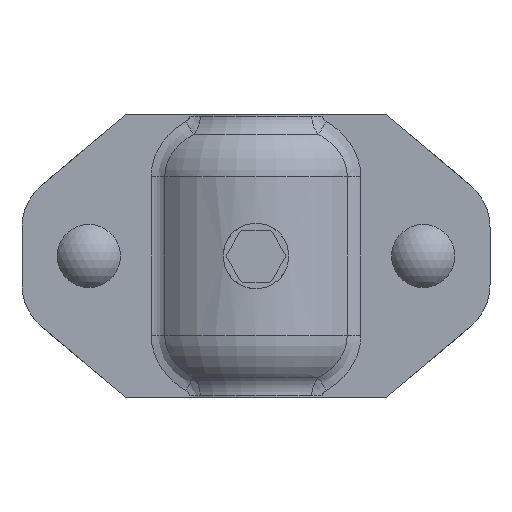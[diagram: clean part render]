
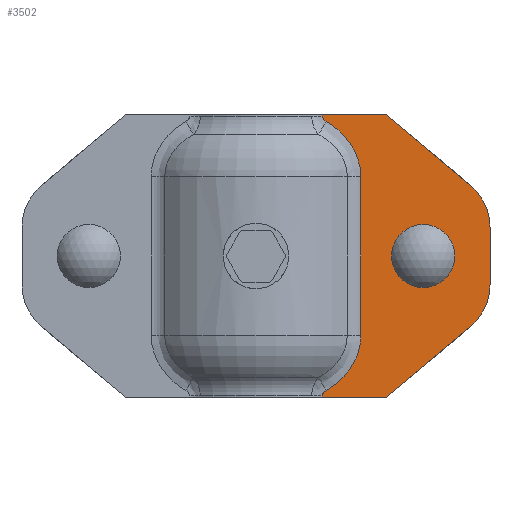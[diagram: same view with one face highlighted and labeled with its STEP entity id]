
A CAD part, front view. The second image highlights one B-rep face of the part: STEP entity #3502.
In plain terms, the highlighted planar face has unit normal (0, -1, 0).
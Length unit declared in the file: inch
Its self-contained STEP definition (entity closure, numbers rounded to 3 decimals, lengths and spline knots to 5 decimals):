
#89=B_SPLINE_CURVE_WITH_KNOTS('',3,(#5811,#5812,#5813,#5814,#5815,#5816),
 .UNSPECIFIED.,.F.,.F.,(4,1,1,4),(0.,0.07036,0.10554,
0.24625),.UNSPECIFIED.);
#91=B_SPLINE_CURVE_WITH_KNOTS('',3,(#5856,#5857,#5858,#5859,#5860,#5861),
 .UNSPECIFIED.,.F.,.F.,(4,1,1,4),(0.,1.03077,1.71795,
2.40513),.UNSPECIFIED.);
#93=B_SPLINE_CURVE_WITH_KNOTS('',3,(#5907,#5908,#5909,#5910,#5911,#5912),
 .UNSPECIFIED.,.F.,.F.,(4,1,1,4),(0.,1.03076,1.71793,
2.40511),.UNSPECIFIED.);
#95=B_SPLINE_CURVE_WITH_KNOTS('',3,(#5952,#5953,#5954,#5955,#5956,#5957),
 .UNSPECIFIED.,.F.,.F.,(4,1,1,4),(0.,0.14072,0.1759,
0.24626),.UNSPECIFIED.);
#158=FACE_BOUND('',#523,.T.);
#205=PLANE('',#3769);
#326=FACE_OUTER_BOUND('',#522,.T.);
#522=EDGE_LOOP('',(#2478,#2479,#2480,#2481,#2482,#2483,#2484,#2485,#2486,
#2487,#2488,#2489,#2490,#2491));
#523=EDGE_LOOP('',(#2492,#2493));
#745=LINE('',#5771,#1021);
#747=LINE('',#5867,#1023);
#749=LINE('',#5963,#1025);
#750=LINE('',#5966,#1026);
#751=LINE('',#5968,#1027);
#752=LINE('',#5972,#1028);
#753=LINE('',#5976,#1029);
#754=LINE('',#5977,#1030);
#1021=VECTOR('',#4301,0.3937);
#1023=VECTOR('',#4311,0.3937);
#1025=VECTOR('',#4321,0.3937);
#1026=VECTOR('',#4324,0.3937);
#1027=VECTOR('',#4325,0.3937);
#1028=VECTOR('',#4328,0.3937);
#1029=VECTOR('',#4331,0.3937);
#1030=VECTOR('',#4332,0.3937);
#1255=CIRCLE('',#3717,0.4375);
#1256=CIRCLE('',#3718,0.4375);
#1286=CIRCLE('',#3770,0.75);
#1287=CIRCLE('',#3771,0.75);
#1447=VERTEX_POINT('',#5655);
#1448=VERTEX_POINT('',#5656);
#1486=VERTEX_POINT('',#5764);
#1489=VERTEX_POINT('',#5769);
#1490=VERTEX_POINT('',#5802);
#1492=VERTEX_POINT('',#5847);
#1494=VERTEX_POINT('',#5863);
#1496=VERTEX_POINT('',#5898);
#1498=VERTEX_POINT('',#5943);
#1500=VERTEX_POINT('',#5959);
#1502=VERTEX_POINT('',#5965);
#1503=VERTEX_POINT('',#5967);
#1504=VERTEX_POINT('',#5969);
#1505=VERTEX_POINT('',#5971);
#1506=VERTEX_POINT('',#5973);
#1507=VERTEX_POINT('',#5975);
#1801=EDGE_CURVE('',#1447,#1448,#1255,.T.);
#1802=EDGE_CURVE('',#1448,#1447,#1256,.T.);
#1855=EDGE_CURVE('',#1489,#1486,#745,.T.);
#1858=EDGE_CURVE('',#1486,#1490,#89,.T.);
#1861=EDGE_CURVE('',#1490,#1492,#91,.T.);
#1864=EDGE_CURVE('',#1492,#1494,#747,.T.);
#1867=EDGE_CURVE('',#1494,#1496,#93,.T.);
#1870=EDGE_CURVE('',#1496,#1498,#95,.T.);
#1873=EDGE_CURVE('',#1498,#1500,#749,.T.);
#1874=EDGE_CURVE('',#1489,#1502,#750,.T.);
#1875=EDGE_CURVE('',#1502,#1503,#751,.T.);
#1876=EDGE_CURVE('',#1503,#1504,#1286,.T.);
#1877=EDGE_CURVE('',#1504,#1505,#752,.T.);
#1878=EDGE_CURVE('',#1505,#1506,#1287,.T.);
#1879=EDGE_CURVE('',#1506,#1507,#753,.T.);
#1880=EDGE_CURVE('',#1507,#1500,#754,.T.);
#2478=ORIENTED_EDGE('',*,*,#1873,.F.);
#2479=ORIENTED_EDGE('',*,*,#1870,.F.);
#2480=ORIENTED_EDGE('',*,*,#1867,.F.);
#2481=ORIENTED_EDGE('',*,*,#1864,.F.);
#2482=ORIENTED_EDGE('',*,*,#1861,.F.);
#2483=ORIENTED_EDGE('',*,*,#1858,.F.);
#2484=ORIENTED_EDGE('',*,*,#1855,.F.);
#2485=ORIENTED_EDGE('',*,*,#1874,.T.);
#2486=ORIENTED_EDGE('',*,*,#1875,.T.);
#2487=ORIENTED_EDGE('',*,*,#1876,.T.);
#2488=ORIENTED_EDGE('',*,*,#1877,.T.);
#2489=ORIENTED_EDGE('',*,*,#1878,.T.);
#2490=ORIENTED_EDGE('',*,*,#1879,.T.);
#2491=ORIENTED_EDGE('',*,*,#1880,.T.);
#2492=ORIENTED_EDGE('',*,*,#1801,.T.);
#2493=ORIENTED_EDGE('',*,*,#1802,.T.);
#3502=ADVANCED_FACE('',(#326,#158),#205,.T.);
#3717=AXIS2_PLACEMENT_3D('',#5657,#4184,#4185);
#3718=AXIS2_PLACEMENT_3D('',#5658,#4186,#4187);
#3769=AXIS2_PLACEMENT_3D('',#5964,#4322,#4323);
#3770=AXIS2_PLACEMENT_3D('',#5970,#4326,#4327);
#3771=AXIS2_PLACEMENT_3D('',#5974,#4329,#4330);
#4184=DIRECTION('center_axis',(0.,1.,0.));
#4185=DIRECTION('ref_axis',(-1.,0.,0.));
#4186=DIRECTION('center_axis',(0.,1.,0.));
#4187=DIRECTION('ref_axis',(-1.,0.,0.));
#4301=DIRECTION('',(0.,0.,1.));
#4311=DIRECTION('',(0.,0.,1.));
#4321=DIRECTION('',(0.,0.,1.));
#4322=DIRECTION('center_axis',(0.,-1.,0.));
#4323=DIRECTION('ref_axis',(0.,0.,-1.));
#4324=DIRECTION('',(1.,0.,0.));
#4325=DIRECTION('',(0.766,0.,0.643));
#4326=DIRECTION('center_axis',(0.,-1.,0.));
#4327=DIRECTION('ref_axis',(-1.,0.,0.));
#4328=DIRECTION('',(0.,0.,1.));
#4329=DIRECTION('center_axis',(0.,-1.,0.));
#4330=DIRECTION('ref_axis',(-0.643,0.,-0.766));
#4331=DIRECTION('',(-0.766,0.,0.643));
#4332=DIRECTION('',(-1.,0.,0.));
#5655=CARTESIAN_POINT('',(1.8775,-1.03,0.));
#5656=CARTESIAN_POINT('',(2.7525,-1.03,0.));
#5657=CARTESIAN_POINT('Origin',(2.315,-1.03,0.));
#5658=CARTESIAN_POINT('Origin',(2.315,-1.03,0.));
#5764=CARTESIAN_POINT('',(0.91773,-1.03,-1.93723));
#5769=CARTESIAN_POINT('',(0.91773,-1.03,-1.955));
#5771=CARTESIAN_POINT('',(0.91773,-1.03,-1.94612));
#5802=CARTESIAN_POINT('',(0.97182,-1.03,-1.86207));
#5811=CARTESIAN_POINT('Ctrl Pts',(0.91773,-1.03,-1.93723));
#5812=CARTESIAN_POINT('Ctrl Pts',(0.91773,-1.03,-1.928));
#5813=CARTESIAN_POINT('Ctrl Pts',(0.921,-1.03,-1.91426));
#5814=CARTESIAN_POINT('Ctrl Pts',(0.9373,-1.03,-1.88614));
#5815=CARTESIAN_POINT('Ctrl Pts',(0.95583,-1.03,-1.87132));
#5816=CARTESIAN_POINT('Ctrl Pts',(0.97182,-1.03,-1.86207));
#5847=CARTESIAN_POINT('',(1.45048,-1.03,-1.096));
#5856=CARTESIAN_POINT('Ctrl Pts',(0.97182,-1.03,-1.86207));
#5857=CARTESIAN_POINT('Ctrl Pts',(1.08892,-1.03,-1.79435));
#5858=CARTESIAN_POINT('Ctrl Pts',(1.26546,-1.03,-1.64685));
#5859=CARTESIAN_POINT('Ctrl Pts',(1.41933,-1.03,-1.36637));
#5860=CARTESIAN_POINT('Ctrl Pts',(1.45048,-1.03,-1.18618));
#5861=CARTESIAN_POINT('Ctrl Pts',(1.45048,-1.03,-1.096));
#5863=CARTESIAN_POINT('',(1.45048,-1.03,1.096));
#5867=CARTESIAN_POINT('',(1.45048,-1.03,-0.548));
#5898=CARTESIAN_POINT('',(0.97182,-1.03,1.86207));
#5907=CARTESIAN_POINT('Ctrl Pts',(1.45048,-1.03,1.096));
#5908=CARTESIAN_POINT('Ctrl Pts',(1.45048,-1.03,1.23127));
#5909=CARTESIAN_POINT('Ctrl Pts',(1.39092,-1.03,1.4559));
#5910=CARTESIAN_POINT('Ctrl Pts',(1.19582,-1.03,1.70861));
#5911=CARTESIAN_POINT('Ctrl Pts',(1.04989,-1.03,1.81693));
#5912=CARTESIAN_POINT('Ctrl Pts',(0.97182,-1.03,1.86207));
#5943=CARTESIAN_POINT('',(0.91773,-1.03,1.93723));
#5952=CARTESIAN_POINT('Ctrl Pts',(0.97182,-1.03,1.86207));
#5953=CARTESIAN_POINT('Ctrl Pts',(0.95583,-1.03,1.87132));
#5954=CARTESIAN_POINT('Ctrl Pts',(0.93731,-1.03,1.88614));
#5955=CARTESIAN_POINT('Ctrl Pts',(0.921,-1.03,1.91426));
#5956=CARTESIAN_POINT('Ctrl Pts',(0.91773,-1.03,1.928));
#5957=CARTESIAN_POINT('Ctrl Pts',(0.91773,-1.03,1.93723));
#5959=CARTESIAN_POINT('',(0.91773,-1.03,1.955));
#5963=CARTESIAN_POINT('',(0.91773,-1.03,1.94612));
#5964=CARTESIAN_POINT('Origin',(0.,-1.03,0.));
#5965=CARTESIAN_POINT('',(1.80394,-1.03,-1.955));
#5966=CARTESIAN_POINT('',(-1.80394,-1.03,-1.955));
#5967=CARTESIAN_POINT('',(2.97209,-1.03,-0.9748));
#5968=CARTESIAN_POINT('',(1.80394,-1.03,-1.955));
#5969=CARTESIAN_POINT('',(3.24,-1.03,-0.40027));
#5970=CARTESIAN_POINT('Origin',(2.49,-1.03,-0.40027));
#5971=CARTESIAN_POINT('',(3.24,-1.03,0.40027));
#5972=CARTESIAN_POINT('',(3.24,-1.03,-0.40027));
#5973=CARTESIAN_POINT('',(2.97209,-1.03,0.9748));
#5974=CARTESIAN_POINT('Origin',(2.49,-1.03,0.40027));
#5975=CARTESIAN_POINT('',(1.80394,-1.03,1.955));
#5976=CARTESIAN_POINT('',(2.97209,-1.03,0.9748));
#5977=CARTESIAN_POINT('',(1.80394,-1.03,1.955));
